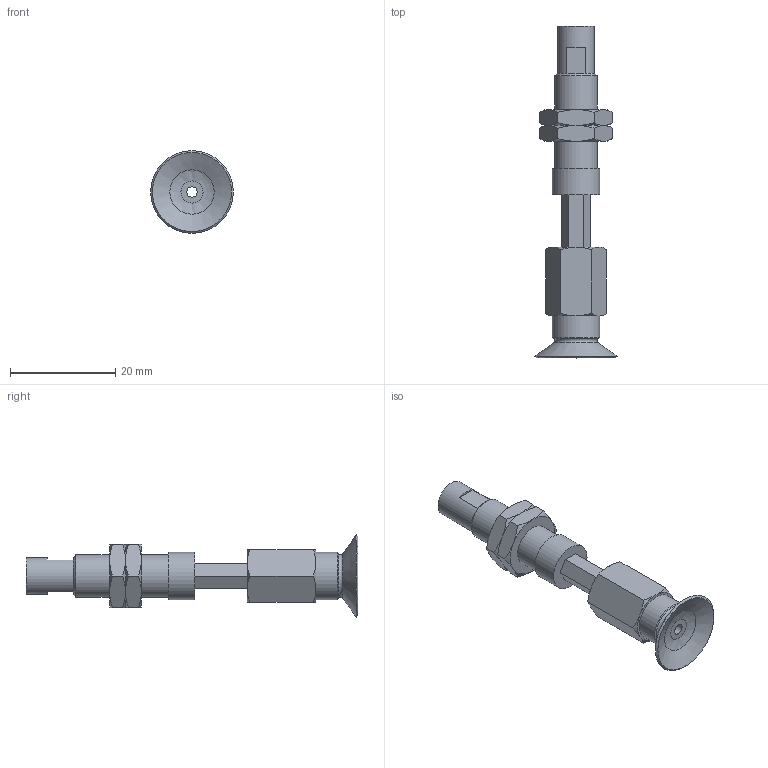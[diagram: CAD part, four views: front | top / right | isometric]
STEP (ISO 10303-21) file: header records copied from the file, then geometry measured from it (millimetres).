
FILE_DESCRIPTION(('STEP AP203'),'1');
FILE_NAME('.stp','2025-08-27T03:14:59',(' '),(' '),'Spatial InterOp 3D',' ',' ');
FILE_SCHEMA(('CONFIG_CONTROL_DESIGN'));
Length unit declared in the file: millimetre
Products named in the file (6): BNABPFTH-15A-10-※; ADAPTER; NAPATH-10A-10--M; Nut-15A-10-h; NAPFTH-15A-10-FBODY; BPFG-15A-※
Assembly tree (6 placements, depth 2):
  BNABPFTH-15A-10-※
    ADAPTER
    NAPATH-10A-10--M
    Nut-15A-10-h  x2
    NAPFTH-15A-10-FBODY
    BPFG-15A-※
Bounding box: 15.7 x 63 x 15.7 mm (x, y, z)
Volume: 3612.7 mm3; surface area: 4319.7 mm2
Topology: 6 solids, 6 shells, 123 faces, 264 edges, 160 vertices
Faces by surface type: plane 53, cone 46, cylinder 14, torus 9, bspline 1
Full cylindrical faces by diameter (mm): 2 x3, 4 x2, 4.134 x1, 6 x2, 7 x1, 7.188 x2, 8 x1, 9 x2
Entity records: 3003 total; most frequent: CARTESIAN_POINT 724, DIRECTION 412, ORIENTED_EDGE 354, AXIS2_PLACEMENT_3D 177, EDGE_CURVE 177, EDGE_LOOP 148, VERTEX_POINT 125, FACE_OUTER_BOUND 123
